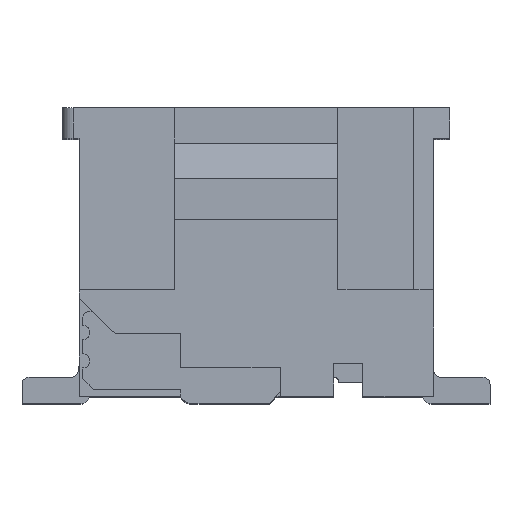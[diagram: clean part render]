
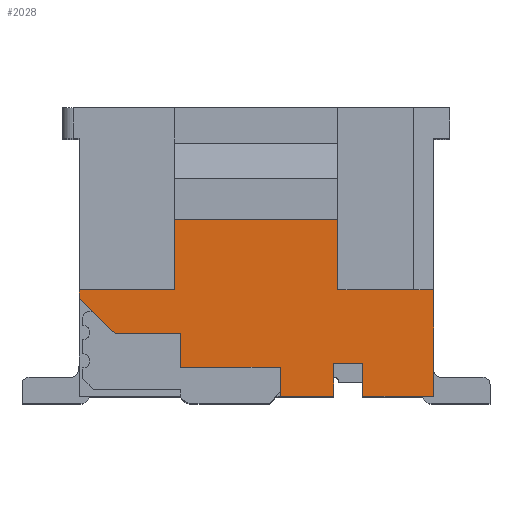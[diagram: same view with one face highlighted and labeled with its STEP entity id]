
A CAD part, top view. The second image highlights one B-rep face of the part: STEP entity #2028.
In plain terms, the highlighted planar face has unit normal (0, 0, 1).
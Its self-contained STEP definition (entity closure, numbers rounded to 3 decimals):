
#882=PLANE('',#25470);
#2028=ADVANCED_FACE('',(#3433),#882,.F.);
#3433=FACE_OUTER_BOUND('',#4598,.T.);
#4598=EDGE_LOOP('',(#16849,#16850,#16851,#16852,#16853,#16854,#16855,#16856,
#16857,#16858,#16859,#16860,#16861,#16862,#16863,#16864,#16865));
#6555=LINE('',#36368,#9477);
#6635=LINE('',#36518,#9557);
#6645=LINE('',#36538,#9567);
#7050=LINE('',#37546,#9972);
#7052=LINE('',#37550,#9974);
#7059=LINE('',#37565,#9981);
#7061=LINE('',#37569,#9983);
#7063=LINE('',#37573,#9985);
#7065=LINE('',#37577,#9987);
#7067=LINE('',#37581,#9989);
#7072=LINE('',#37591,#9994);
#7448=LINE('',#38532,#10370);
#7450=LINE('',#38535,#10372);
#7489=LINE('',#38608,#10411);
#7491=LINE('',#38611,#10413);
#7510=LINE('',#38652,#10432);
#7511=LINE('',#38654,#10433);
#9477=VECTOR('',#29577,1.);
#9557=VECTOR('',#29661,1.);
#9567=VECTOR('',#29673,1.);
#9972=VECTOR('',#30516,1.);
#9974=VECTOR('',#30520,1.);
#9981=VECTOR('',#30529,1.);
#9983=VECTOR('',#30533,1.);
#9985=VECTOR('',#30537,1.);
#9987=VECTOR('',#30541,1.);
#9989=VECTOR('',#30545,1.);
#9994=VECTOR('',#30552,1.);
#10370=VECTOR('',#31472,1.);
#10372=VECTOR('',#31476,1.);
#10411=VECTOR('',#31557,1.);
#10413=VECTOR('',#31561,1.);
#10432=VECTOR('',#31608,1.);
#10433=VECTOR('',#31611,1.);
#16849=ORIENTED_EDGE('',*,*,#22661,.T.);
#16850=ORIENTED_EDGE('',*,*,#23139,.F.);
#16851=ORIENTED_EDGE('',*,*,#22130,.F.);
#16852=ORIENTED_EDGE('',*,*,#23141,.F.);
#16853=ORIENTED_EDGE('',*,*,#22659,.F.);
#16854=ORIENTED_EDGE('',*,*,#22657,.F.);
#16855=ORIENTED_EDGE('',*,*,#22655,.F.);
#16856=ORIENTED_EDGE('',*,*,#23201,.F.);
#16857=ORIENTED_EDGE('',*,*,#22050,.F.);
#16858=ORIENTED_EDGE('',*,*,#23202,.F.);
#16859=ORIENTED_EDGE('',*,*,#22666,.F.);
#16860=ORIENTED_EDGE('',*,*,#22653,.F.);
#16861=ORIENTED_EDGE('',*,*,#23180,.F.);
#16862=ORIENTED_EDGE('',*,*,#22140,.F.);
#16863=ORIENTED_EDGE('',*,*,#23182,.F.);
#16864=ORIENTED_EDGE('',*,*,#22646,.T.);
#16865=ORIENTED_EDGE('',*,*,#22644,.T.);
#19013=VERTEX_POINT('',#36367);
#19014=VERTEX_POINT('',#36369);
#19081=VERTEX_POINT('',#36517);
#19082=VERTEX_POINT('',#36519);
#19090=VERTEX_POINT('',#36537);
#19091=VERTEX_POINT('',#36539);
#19474=VERTEX_POINT('',#37545);
#19475=VERTEX_POINT('',#37547);
#19476=VERTEX_POINT('',#37551);
#19478=VERTEX_POINT('',#37557);
#19482=VERTEX_POINT('',#37564);
#19483=VERTEX_POINT('',#37568);
#19484=VERTEX_POINT('',#37570);
#19485=VERTEX_POINT('',#37574);
#19486=VERTEX_POINT('',#37578);
#19487=VERTEX_POINT('',#37582);
#19489=VERTEX_POINT('',#37588);
#22050=EDGE_CURVE('',#19013,#19014,#6555,.T.);
#22130=EDGE_CURVE('',#19081,#19082,#6635,.T.);
#22140=EDGE_CURVE('',#19090,#19091,#6645,.T.);
#22644=EDGE_CURVE('',#19475,#19474,#7050,.T.);
#22646=EDGE_CURVE('',#19476,#19475,#7052,.T.);
#22653=EDGE_CURVE('',#19482,#19478,#7059,.T.);
#22655=EDGE_CURVE('',#19483,#19484,#7061,.T.);
#22657=EDGE_CURVE('',#19484,#19485,#7063,.T.);
#22659=EDGE_CURVE('',#19485,#19486,#7065,.T.);
#22661=EDGE_CURVE('',#19474,#19487,#7067,.T.);
#22666=EDGE_CURVE('',#19478,#19489,#7072,.T.);
#23139=EDGE_CURVE('',#19082,#19487,#7448,.T.);
#23141=EDGE_CURVE('',#19486,#19081,#7450,.T.);
#23180=EDGE_CURVE('',#19091,#19482,#7489,.T.);
#23182=EDGE_CURVE('',#19476,#19090,#7491,.T.);
#23201=EDGE_CURVE('',#19014,#19483,#7510,.T.);
#23202=EDGE_CURVE('',#19489,#19013,#7511,.T.);
#25470=AXIS2_PLACEMENT_3D('',#38655,#31612,#31613);
#29577=DIRECTION('',(-1.,0.,0.));
#29661=DIRECTION('',(0.,1.,0.));
#29673=DIRECTION('',(0.,-1.,0.));
#30516=DIRECTION('',(-1.,0.,0.));
#30520=DIRECTION('',(0.,1.,0.));
#30529=DIRECTION('',(0.,1.,0.));
#30533=DIRECTION('',(-1.,0.,0.));
#30537=DIRECTION('',(0.,1.,0.));
#30541=DIRECTION('',(-1.,0.,0.));
#30545=DIRECTION('',(0.,-1.,0.));
#30552=DIRECTION('',(-1.,0.,0.));
#31472=DIRECTION('',(1.,0.,0.));
#31476=DIRECTION('',(-0.719,0.695,0.));
#31557=DIRECTION('',(-1.,0.,0.));
#31561=DIRECTION('',(1.,0.,0.));
#31608=DIRECTION('',(0.,1.,0.));
#31611=DIRECTION('',(0.,-1.,0.));
#31612=DIRECTION('',(0.,0.,-1.));
#31613=DIRECTION('',(1.,0.,0.));
#36367=CARTESIAN_POINT('',(-0.421,-2.415,7.2));
#36368=CARTESIAN_POINT('',(-0.421,-2.415,7.2));
#36369=CARTESIAN_POINT('',(-1.173,-2.415,7.2));
#36517=CARTESIAN_POINT('',(-4.011,-1.035,7.2));
#36518=CARTESIAN_POINT('',(-4.011,-2.415,7.2));
#36519=CARTESIAN_POINT('',(-4.011,-0.915,7.2));
#36537=CARTESIAN_POINT('',(0.989,-0.915,7.2));
#36538=CARTESIAN_POINT('',(0.989,1.22,7.2));
#36539=CARTESIAN_POINT('',(0.989,-2.415,7.2));
#37545=CARTESIAN_POINT('',(-2.661,0.075,7.2));
#37546=CARTESIAN_POINT('',(-2.661,0.075,7.2));
#37547=CARTESIAN_POINT('',(-0.361,0.075,7.2));
#37550=CARTESIAN_POINT('',(-0.361,0.075,7.2));
#37551=CARTESIAN_POINT('',(-0.361,-0.915,7.2));
#37557=CARTESIAN_POINT('',(-0.011,-1.955,7.2));
#37564=CARTESIAN_POINT('',(-0.011,-2.415,7.2));
#37565=CARTESIAN_POINT('',(-0.011,-2.415,7.2));
#37568=CARTESIAN_POINT('',(-1.173,-2.005,7.2));
#37569=CARTESIAN_POINT('',(-2.583,-2.005,7.2));
#37570=CARTESIAN_POINT('',(-2.583,-2.005,7.2));
#37573=CARTESIAN_POINT('',(-2.583,-1.525,7.2));
#37574=CARTESIAN_POINT('',(-2.583,-1.525,7.2));
#37577=CARTESIAN_POINT('',(-3.503,-1.525,7.2));
#37578=CARTESIAN_POINT('',(-3.503,-1.525,7.2));
#37581=CARTESIAN_POINT('',(-2.661,0.075,7.2));
#37582=CARTESIAN_POINT('',(-2.661,-0.915,7.2));
#37588=CARTESIAN_POINT('',(-0.421,-1.955,7.2));
#37591=CARTESIAN_POINT('',(-0.011,-1.955,7.2));
#38532=CARTESIAN_POINT('',(-5.281,-0.915,7.2));
#38535=CARTESIAN_POINT('',(-4.011,-1.035,7.2));
#38608=CARTESIAN_POINT('',(0.989,-2.415,7.2));
#38611=CARTESIAN_POINT('',(-5.281,-0.915,7.2));
#38652=CARTESIAN_POINT('',(-1.173,-2.005,7.2));
#38654=CARTESIAN_POINT('',(-0.421,-1.955,7.2));
#38655=CARTESIAN_POINT('',(-5.281,-0.915,7.2));
